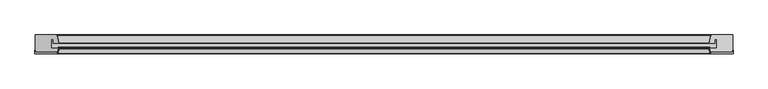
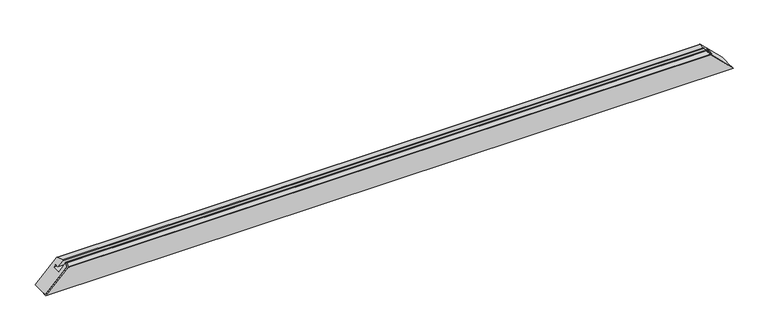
"""IFC4 building model written with IfcOpenShell, lengths in millimetres: proxy geometry, Weiku - Montante - Caixilho fixo 02.2.01.005 : Weiku - Montante - Caixilho fixo 02.2.01.005."""

from ifc_helpers import new_model, si_unit, frame, origin, place, context, project, spatial, polyline, ellipse_curve, source, transform, mapped, element, save
from ifc_brep_helpers import plane_surface, cylinder_surface, revolved_surface, advanced_brep


def generic_models_4d119972(model_context):
    return source(origin(), model_context, "Body", "AdvancedBrep", [
        advanced_brep(
        [(998.0, -43.5137905, -1.0), (997.0, -43.5137905, 0.0), (997.0, -50.0, 0.0), (935.4997332, -50.0, 61.5002668), (932.6019557, -47.7764571, 64.3980443), (930.118227, -38.5070552, 66.881773), (930.8909676, -37.5, 66.1090324), (930.8909676, -35.5, 66.1090324), (928.1863753, -39.0246933, 68.8136247), (932.0003978, -53.258819, 64.9996022), (932.9663236, -54.0, 64.0336764), (998.0, -54.0, -1.0), (-998.0, -54.0, -1.0), (-932.9663236, -54.0, 64.0336764), (-932.0003978, -53.258819, 64.9996022), (-928.1863753, -39.0246933, 68.8136247), (-930.8909676, -35.5, 66.1090324), (-930.8909676, -37.5, 66.1090324), (-930.118227, -38.5070552, 66.881773), (-932.6019557, -47.7764571, 64.3980443), (-935.4997332, -50.0, 61.5002668), (-997.0, -50.0, 0.0), (-997.0, -43.5137905, 0.0), (-998.0, -43.5137905, -1.0)],
        [
            (0, 1),
            (1, 2),
            (2, 3),
            (3, 4, ellipse_curve(frame((935.4997332, -47.0, 61.5002668), z_axis=(-0.7071067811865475, 0.0, -0.7071067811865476), x_axis=(0.7071067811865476, 0.0, -0.7071067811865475)), 4.2426407, 3.0)),
            (4, 5),
            (5, 6, ellipse_curve(frame((930.8909676, -38.3, 66.1090324), z_axis=(-0.7071067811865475, 0.0, -0.7071067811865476), x_axis=(0.7071067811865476, 0.0, -0.7071067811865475)), 1.1313708, 0.8)),
            (6, 7),
            (7, 8, ellipse_curve(frame((930.8909676, -38.3, 66.1090324), z_axis=(0.7071067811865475, 0.0, 0.7071067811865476), x_axis=(-0.7071067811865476, 0.0, 0.7071067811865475)), 3.959798, 2.8)),
            (8, 9),
            (9, 10, ellipse_curve(frame((932.9663236, -53.0, 64.0336764), z_axis=(0.7071067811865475, 0.0, 0.7071067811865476), x_axis=(-0.7071067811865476, 0.0, 0.7071067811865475)), 1.4142136, 1.0)),
            (10, 11),
            (11, 0),
            (12, 13),
            (13, 14, ellipse_curve(frame((-932.9663236, -53.0, 64.0336764), z_axis=(-0.7071067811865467, 0.0, 0.7071067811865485), x_axis=(-0.7071067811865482, 0.0, -0.7071067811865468)), 1.4142136, 1.0)),
            (14, 15),
            (15, 16, ellipse_curve(frame((-930.8909676, -38.3, 66.1090324), z_axis=(-0.7071067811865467, 0.0, 0.7071067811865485), x_axis=(-0.7071067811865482, 0.0, -0.7071067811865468)), 3.959798, 2.8)),
            (16, 17),
            (17, 18, ellipse_curve(frame((-930.8909676, -38.3, 66.1090324), z_axis=(0.7071067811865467, 0.0, -0.7071067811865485), x_axis=(0.7071067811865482, 0.0, 0.7071067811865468)), 1.1313708, 0.8)),
            (18, 19),
            (19, 20, ellipse_curve(frame((-935.4997332, -47.0, 61.5002668), z_axis=(0.7071067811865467, 0.0, -0.7071067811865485), x_axis=(0.7071067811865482, 0.0, 0.7071067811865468)), 4.2426407, 3.0)),
            (20, 21),
            (21, 22),
            (22, 23),
            (23, 12),
            (11, 12),
            (23, 0),
            (22, 1),
            (21, 2),
            (20, 3),
            (19, 4),
            (18, 5),
            (17, 6),
            (16, 7),
            (15, 8),
            (14, 9),
            (13, 10),
        ],
        [
            plane_surface(frame((927.0, 15.0, 70.0), z_axis=(0.7071067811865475, 0.0, 0.7071067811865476), x_axis=(0.0, -1.0, 0.0))),
            plane_surface(frame((-1067.0, 15.0, -70.0), z_axis=(-0.7071067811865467, 0.0, 0.7071067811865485), x_axis=(0.0, -1.0, 0.0))),
            plane_surface(frame((-999.8284271, -54.0, -1.0), z_axis=(0.0, 0.0, -1.0), x_axis=(1.0, 0.0, 0.0))),
            plane_surface(frame((-999.8284271, -43.5137905, -1.0), z_axis=(0.0, 1.0, 0.0), x_axis=(1.0, 0.0, 0.0))),
            plane_surface(frame((-999.8284271, -43.5137905, 0.0), z_axis=(0.0, 0.0, 1.0), x_axis=(1.0, 0.0, 0.0))),
            plane_surface(frame((-999.8284271, -50.0, 0.0), z_axis=(0.0, 1.0, 0.0), x_axis=(1.0, 0.0, 0.0))),
            revolved_surface(polyline([(938.4997332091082, -44.0, 61.5002668), (-938.4997332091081, -44.0, 61.5002668)]), (-999.8284271, -47.0, 61.5002668), (1.0, 0.0, 0.0)),
            plane_surface(frame((-999.8284271, -47.7764571, 64.3980443), z_axis=(0.0, 0.2588190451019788, -0.9659258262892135), x_axis=(1.0, 0.0, 0.0))),
            revolved_surface(polyline([(931.6909675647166, -37.5, 66.1090324), (-931.6909675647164, -37.5, 66.1090324)]), (-999.8284271, -38.3, 66.1090324), (1.0, 0.0, 0.0)),
            plane_surface(frame((-999.8284271, -37.5, 66.1090324), z_axis=(0.0, 0.0, -1.0), x_axis=(1.0, 0.0, 0.0))),
            cylinder_surface(frame((-999.8284271, -38.3, 66.1090324), z_axis=(-1.0, 0.0, 0.0), x_axis=(0.0, 1.0, 0.0)), 2.8),
            plane_surface(frame((-999.8284271, -39.0246933, 68.8136247), z_axis=(0.0, -0.25881904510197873, 0.9659258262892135), x_axis=(1.0, 0.0, 0.0))),
            cylinder_surface(frame((-999.8284271, -53.0, 64.0336764), z_axis=(-1.0, 0.0, 0.0), x_axis=(0.0, 1.0, 0.0)), 1.0),
            plane_surface(frame((-999.8284271, -54.0, 64.0336764), z_axis=(0.0, -1.0, 0.0), x_axis=(1.0, 0.0, 0.0))),
        ],
        [
            (0, [[1, 2, 3, 4, 5, 6, 7, 8, 9, 10, 11, 12]]),
            (1, [[13, 14, 15, 16, 17, 18, 19, 20, 21, 22, 23, 24]]),
            (2, [[25, -24, 26, -12]]),
            (3, [[-26, -23, 27, -1]]),
            (4, [[-27, -22, 28, -2]]),
            (5, [[-28, -21, 29, -3]]),
            (6, [[-29, -20, 30, -4]]),
            (7, [[-30, -19, 31, -5]]),
            (8, [[-31, -18, 32, -6]]),
            (9, [[-32, -17, 33, -7]]),
            (10, [[-33, -16, 34, -8]]),
            (11, [[-34, -15, 35, -9]]),
            (12, [[-35, -14, 36, -10]]),
            (13, [[-36, -13, -25, -11]]),
        ],
    ),
        advanced_brep(
        [(-930.118227, -38.5070552, 66.881773), (-930.8909676, -37.5, 66.1090324), (-951.0, -37.5, 46.0), (-951.0, -12.5, 46.0), (-945.0009154, -12.5, 51.9990846), (-945.0009154, -23.5, 51.9990846), (-930.9865015, -23.5, 66.0134985), (-929.9998537, -22.3371317, 67.0001463), (-933.5489094, -0.8371317, 63.4510906), (-934.5355572, 0.0, 62.4644428), (-997.0, 0.0, 0.0), (-997.0, -50.0, 0.0), (-935.4997332, -50.0, 61.5002668), (-932.6019557, -47.7764571, 64.3980443), (932.6019557, -47.7764571, 64.3980443), (935.4997332, -50.0, 61.5002668), (997.0, -50.0, 0.0), (997.0, 0.0, 0.0), (934.5355572, 0.0, 62.4644428), (933.5489094, -0.8371317, 63.4510906), (929.9998537, -22.3371317, 67.0001463), (930.9865015, -23.5, 66.0134985), (945.0009154, -23.5, 51.9990846), (945.0009154, -12.5, 51.9990846), (951.0, -12.5, 46.0), (951.0, -37.5, 46.0), (930.8909676, -37.5, 66.1090324), (930.118227, -38.5070552, 66.881773)],
        [
            (0, 1, ellipse_curve(frame((-930.8909676, -38.3, 66.1090324), z_axis=(-0.7071067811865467, 0.0, 0.7071067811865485), x_axis=(-0.7071067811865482, 0.0, -0.7071067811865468)), 1.1313708, 0.8)),
            (1, 2),
            (2, 3),
            (3, 4),
            (4, 5),
            (5, 6),
            (6, 7, ellipse_curve(frame((-930.9865015, -22.5, 66.0134985), z_axis=(-0.7071067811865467, 0.0, 0.7071067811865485), x_axis=(-0.7071067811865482, 0.0, -0.7071067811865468)), 1.4142136, 1.0)),
            (7, 8),
            (8, 9, ellipse_curve(frame((-934.5355572, -1.0, 62.4644428), z_axis=(-0.7071067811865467, 0.0, 0.7071067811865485), x_axis=(-0.7071067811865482, 0.0, -0.7071067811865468)), 1.4142136, 1.0)),
            (9, 10),
            (10, 11),
            (11, 12),
            (12, 13, ellipse_curve(frame((-935.4997332, -47.0, 61.5002668), z_axis=(-0.7071067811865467, 0.0, 0.7071067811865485), x_axis=(-0.7071067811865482, 0.0, -0.7071067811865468)), 4.2426407, 3.0)),
            (13, 0),
            (14, 15, ellipse_curve(frame((935.4997332, -47.0, 61.5002668), z_axis=(0.7071067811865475, 0.0, 0.7071067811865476), x_axis=(-0.7071067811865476, 0.0, 0.7071067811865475)), 4.2426407, 3.0)),
            (15, 16),
            (16, 17),
            (17, 18),
            (18, 19, ellipse_curve(frame((934.5355572, -1.0, 62.4644428), z_axis=(0.7071067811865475, 0.0, 0.7071067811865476), x_axis=(-0.7071067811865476, 0.0, 0.7071067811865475)), 1.4142136, 1.0)),
            (19, 20),
            (20, 21, ellipse_curve(frame((930.9865015, -22.5, 66.0134985), z_axis=(0.7071067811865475, 0.0, 0.7071067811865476), x_axis=(-0.7071067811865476, 0.0, 0.7071067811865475)), 1.4142136, 1.0)),
            (21, 22),
            (22, 23),
            (23, 24),
            (24, 25),
            (25, 26),
            (26, 27, ellipse_curve(frame((930.8909676, -38.3, 66.1090324), z_axis=(0.7071067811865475, 0.0, 0.7071067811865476), x_axis=(-0.7071067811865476, 0.0, 0.7071067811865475)), 1.1313708, 0.8)),
            (27, 14),
            (13, 14),
            (27, 0),
            (12, 15),
            (11, 16),
            (10, 17),
            (9, 18),
            (8, 19),
            (7, 20),
            (6, 21),
            (5, 22),
            (4, 23),
            (3, 24),
            (2, 25),
            (1, 26),
        ],
        [
            plane_surface(frame((-1067.0, 15.0, -70.0), z_axis=(-0.7071067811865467, 0.0, 0.7071067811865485), x_axis=(0.0, -1.0, 0.0))),
            plane_surface(frame((927.0, 15.0, 70.0), z_axis=(0.7071067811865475, 0.0, 0.7071067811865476), x_axis=(0.0, -1.0, 0.0))),
            plane_surface(frame((-997.0, -38.5070552, 66.881773), z_axis=(0.0, -0.2588190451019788, 0.9659258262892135), x_axis=(1.0, 0.0, 0.0))),
            cylinder_surface(frame((-997.0, -47.0, 61.5002668), z_axis=(-1.0, 0.0, 0.0), x_axis=(0.0, 1.0, 0.0)), 3.0),
            plane_surface(frame((-997.0, -50.0, 61.5002668), z_axis=(0.0, -1.0, 0.0), x_axis=(1.0, 0.0, 0.0))),
            plane_surface(frame((-997.0, -50.0, 0.0), z_axis=(0.0, 0.0, -1.0), x_axis=(1.0, 0.0, 0.0))),
            plane_surface(frame((-997.0, 0.0, 0.0), z_axis=(0.0, 1.0, 0.0), x_axis=(1.0, 0.0, 0.0))),
            cylinder_surface(frame((-997.0, -1.0, 62.4644428), z_axis=(-1.0, 0.0, 0.0), x_axis=(0.0, -1.0, 0.0)), 1.0),
            plane_surface(frame((-997.0, -0.8371317, 63.4510906), z_axis=(0.0, 0.16286828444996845, 0.9866478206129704), x_axis=(1.0, 0.0, 0.0))),
            cylinder_surface(frame((-997.0, -22.5, 66.0134985), z_axis=(-1.0, 0.0, 0.0), x_axis=(0.0, -1.0, 0.0)), 1.0),
            plane_surface(frame((-997.0, -23.5, 66.0134985), z_axis=(0.0, -1.0, 0.0), x_axis=(1.0, 0.0, 0.0))),
            plane_surface(frame((-997.0, -23.5, 51.9990846), z_axis=(0.0, 0.0, -1.0), x_axis=(1.0, 0.0, 0.0))),
            plane_surface(frame((-997.0, -12.5, 51.9990846), z_axis=(0.0, -1.0, 0.0), x_axis=(1.0, 0.0, 0.0))),
            plane_surface(frame((-997.0, -12.5, 46.0), z_axis=(0.0, 0.0, 1.0), x_axis=(1.0, 0.0, 0.0))),
            plane_surface(frame((-997.0, -37.5, 46.0), z_axis=(0.0, 1.0, 0.0), x_axis=(1.0, 0.0, 0.0))),
            cylinder_surface(frame((-997.0, -38.3, 66.1090324), z_axis=(-1.0, 0.0, 0.0), x_axis=(0.0, 1.0, 0.0)), 0.8),
        ],
        [
            (0, [[1, 2, 3, 4, 5, 6, 7, 8, 9, 10, 11, 12, 13, 14]]),
            (1, [[15, 16, 17, 18, 19, 20, 21, 22, 23, 24, 25, 26, 27, 28]]),
            (2, [[29, -28, 30, -14]]),
            (3, [[31, -15, -29, -13]]),
            (4, [[-16, -31, -12, 32]]),
            (5, [[-11, 33, -17, -32]]),
            (6, [[-10, 34, -18, -33]]),
            (7, [[35, -19, -34, -9]]),
            (8, [[36, -20, -35, -8]]),
            (9, [[37, -21, -36, -7]]),
            (10, [[38, -22, -37, -6]]),
            (11, [[39, -23, -38, -5]]),
            (12, [[40, -24, -39, -4]]),
            (13, [[41, -25, -40, -3]]),
            (14, [[42, -26, -41, -2]]),
            (15, [[-30, -27, -42, -1]]),
        ],
    ),
    ])


if __name__ == "__main__":
    model = new_model("IFC4")
    model_context = context("Model", 3, world=origin())
    ifc_project = project(units=[si_unit("LENGTHUNIT", "METRE", prefix="MILLI")], contexts=[model_context])
    site = spatial("IfcSite", under=ifc_project)
    building = spatial("IfcBuilding", under=site)
    placement = place(None, origin())
    generic_models_shape = generic_models_4d119972(model_context)
    element("IfcBuildingElementProxy", 1, Name="Weiku - Montante - Caixilho fixo 02.2.01.005 : Weiku - Montante - Caixilho fixo 02.2.01.005", ObjectType="Weiku - Montante - Caixilho fixo 02.2.01.005 : Weiku - Montante - Caixilho fixo 02.2.01.005", at=placement, inside=building, context=model_context, shape_type="MappedRepresentation", body=[
        mapped(generic_models_shape, transform((0.0, 0.0, 0.0), x_axis=(1.0, 0.0, 0.0), y_axis=(0.0, 1.0, 0.0), z_axis=(0.0, 0.0, 1.0))),
    ])
    save(model, "model.ifc")
